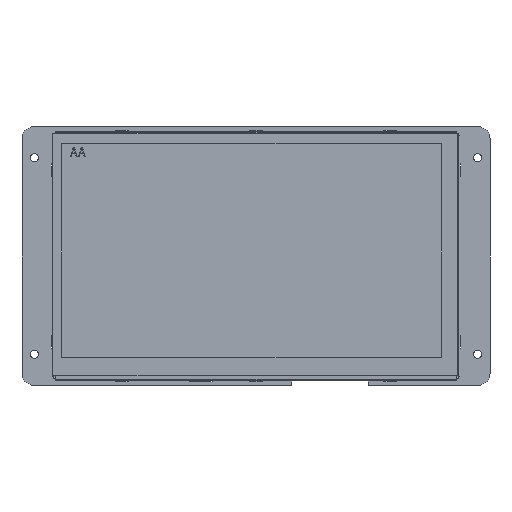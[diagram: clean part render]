
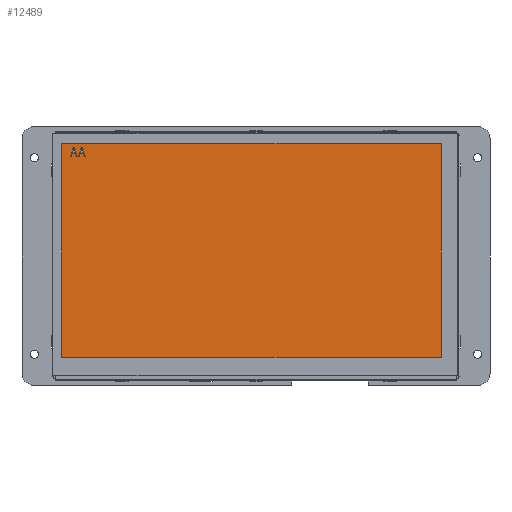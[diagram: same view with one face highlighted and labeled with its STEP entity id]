
A CAD part, front view. The second image highlights one B-rep face of the part: STEP entity #12489.
In plain terms, the highlighted planar face has unit normal (0, -1, 0) as drawn and (0, 1, 0) by its records, which use the part's own axes.
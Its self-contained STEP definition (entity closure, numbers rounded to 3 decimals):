
#11916=DIRECTION('',(0.,0.,1.));
#11917=VECTOR('',#11916,86.98);
#11918=CARTESIAN_POINT('',(-78.78,1.4,-45.17));
#11919=LINE('',#11918,#11917);
#11920=DIRECTION('',(-1.,0.,0.));
#11921=VECTOR('',#11920,154.48);
#11922=CARTESIAN_POINT('',(75.7,1.4,-45.17));
#11923=LINE('',#11922,#11921);
#11924=DIRECTION('',(0.,0.,-1.));
#11925=VECTOR('',#11924,86.98);
#11926=CARTESIAN_POINT('',(75.7,1.4,41.81));
#11927=LINE('',#11926,#11925);
#11928=DIRECTION('',(1.,0.,0.));
#11929=VECTOR('',#11928,154.48);
#11930=CARTESIAN_POINT('',(-78.78,1.4,41.81));
#11931=LINE('',#11930,#11929);
#11932=DIRECTION('',(0.316,0.,0.949));
#11933=VECTOR('',#11932,3.457);
#11934=CARTESIAN_POINT('',(-73.588,1.4,-43.408));
#11935=LINE('',#11934,#11933);
#11936=DIRECTION('',(1.,0.,0.));
#11937=VECTOR('',#11936,0.547);
#11938=CARTESIAN_POINT('',(-74.135,1.4,-43.408));
#11939=LINE('',#11938,#11937);
#11940=DIRECTION('',(0.316,0.,-0.949));
#11941=VECTOR('',#11940,3.457);
#11942=CARTESIAN_POINT('',(-75.228,1.4,-40.128));
#11943=LINE('',#11942,#11941);
#11944=DIRECTION('',(-1.,0.,0.));
#11945=VECTOR('',#11944,0.41);
#11946=CARTESIAN_POINT('',(-74.818,1.4,-40.128));
#11947=LINE('',#11946,#11945);
#11948=DIRECTION('',(-0.31,0.,0.951));
#11949=VECTOR('',#11948,0.881);
#11950=CARTESIAN_POINT('',(-74.545,1.4,-40.966));
#11951=LINE('',#11950,#11949);
#11952=DIRECTION('',(-1.,0.,0.));
#11953=VECTOR('',#11952,1.367);
#11954=CARTESIAN_POINT('',(-73.178,1.4,-40.966));
#11955=LINE('',#11954,#11953);
#11956=DIRECTION('',(-0.31,0.,-0.951));
#11957=VECTOR('',#11956,0.881);
#11958=CARTESIAN_POINT('',(-72.905,1.4,-40.128));
#11959=LINE('',#11958,#11957);
#11960=DIRECTION('',(-1.,0.,0.));
#11961=VECTOR('',#11960,0.41);
#11962=CARTESIAN_POINT('',(-72.495,1.4,-40.128));
#11963=LINE('',#11962,#11961);
#11976=DIRECTION('',(0.316,0.,0.949));
#11977=VECTOR('',#11976,3.457);
#11978=CARTESIAN_POINT('',(-70.308,1.4,-43.408));
#11979=LINE('',#11978,#11977);
#11980=DIRECTION('',(1.,0.,0.));
#11981=VECTOR('',#11980,0.547);
#11982=CARTESIAN_POINT('',(-70.855,1.4,-43.408));
#11983=LINE('',#11982,#11981);
#11984=DIRECTION('',(0.316,0.,-0.949));
#11985=VECTOR('',#11984,3.457);
#11986=CARTESIAN_POINT('',(-71.948,1.4,-40.128));
#11987=LINE('',#11986,#11985);
#11988=DIRECTION('',(-1.,0.,0.));
#11989=VECTOR('',#11988,0.41);
#11990=CARTESIAN_POINT('',(-71.538,1.4,-40.128));
#11991=LINE('',#11990,#11989);
#11992=DIRECTION('',(-0.31,0.,0.951));
#11993=VECTOR('',#11992,0.881);
#11994=CARTESIAN_POINT('',(-71.265,1.4,-40.966));
#11995=LINE('',#11994,#11993);
#11996=DIRECTION('',(-1.,0.,0.));
#11997=VECTOR('',#11996,1.367);
#11998=CARTESIAN_POINT('',(-69.898,1.4,-40.966));
#11999=LINE('',#11998,#11997);
#12000=DIRECTION('',(-0.31,0.,-0.951));
#12001=VECTOR('',#12000,0.881);
#12002=CARTESIAN_POINT('',(-69.625,1.4,-40.128));
#12003=LINE('',#12002,#12001);
#12004=DIRECTION('',(-1.,0.,0.));
#12005=VECTOR('',#12004,0.41);
#12006=CARTESIAN_POINT('',(-69.215,1.4,-40.128));
#12007=LINE('',#12006,#12005);
#12124=CARTESIAN_POINT('',(-78.78,1.4,-45.17));
#12125=CARTESIAN_POINT('',(-78.78,1.4,41.81));
#12126=VERTEX_POINT('',#12124);
#12127=VERTEX_POINT('',#12125);
#12128=CARTESIAN_POINT('',(75.7,1.4,41.81));
#12129=VERTEX_POINT('',#12128);
#12130=CARTESIAN_POINT('',(75.7,1.4,-45.17));
#12131=VERTEX_POINT('',#12130);
#12132=CARTESIAN_POINT('',(-73.588,1.4,-43.408));
#12133=CARTESIAN_POINT('',(-72.495,1.4,-40.128));
#12134=VERTEX_POINT('',#12132);
#12135=VERTEX_POINT('',#12133);
#12136=CARTESIAN_POINT('',(-72.905,1.4,-40.128));
#12137=VERTEX_POINT('',#12136);
#12138=CARTESIAN_POINT('',(-73.178,1.4,-40.966));
#12139=VERTEX_POINT('',#12138);
#12140=CARTESIAN_POINT('',(-74.545,1.4,-40.966));
#12141=VERTEX_POINT('',#12140);
#12142=CARTESIAN_POINT('',(-74.818,1.4,-40.128));
#12143=VERTEX_POINT('',#12142);
#12144=CARTESIAN_POINT('',(-75.228,1.4,-40.128));
#12145=VERTEX_POINT('',#12144);
#12146=CARTESIAN_POINT('',(-74.135,1.4,-43.408));
#12147=VERTEX_POINT('',#12146);
#12154=CARTESIAN_POINT('',(-70.308,1.4,-43.408));
#12155=CARTESIAN_POINT('',(-69.215,1.4,-40.128));
#12156=VERTEX_POINT('',#12154);
#12157=VERTEX_POINT('',#12155);
#12158=CARTESIAN_POINT('',(-69.625,1.4,-40.128));
#12159=VERTEX_POINT('',#12158);
#12160=CARTESIAN_POINT('',(-69.898,1.4,-40.966));
#12161=VERTEX_POINT('',#12160);
#12162=CARTESIAN_POINT('',(-71.265,1.4,-40.966));
#12163=VERTEX_POINT('',#12162);
#12164=CARTESIAN_POINT('',(-71.538,1.4,-40.128));
#12165=VERTEX_POINT('',#12164);
#12166=CARTESIAN_POINT('',(-71.948,1.4,-40.128));
#12167=VERTEX_POINT('',#12166);
#12168=CARTESIAN_POINT('',(-70.855,1.4,-43.408));
#12169=VERTEX_POINT('',#12168);
#12442=CARTESIAN_POINT('',(0.,1.4,0.));
#12443=DIRECTION('',(0.,1.,0.));
#12444=DIRECTION('',(1.,0.,0.));
#12445=AXIS2_PLACEMENT_3D('',#12442,#12443,#12444);
#12446=PLANE('',#12445);
#12447=ORIENTED_EDGE('',*,*,#12394,.F.);
#12448=ORIENTED_EDGE('',*,*,#12409,.F.);
#12449=ORIENTED_EDGE('',*,*,#12423,.F.);
#12450=ORIENTED_EDGE('',*,*,#12436,.F.);
#12451=EDGE_LOOP('',(#12447,#12448,#12449,#12450));
#12452=FACE_OUTER_BOUND('',#12451,.F.);
#12454=ORIENTED_EDGE('',*,*,#12453,.F.);
#12456=ORIENTED_EDGE('',*,*,#12455,.F.);
#12458=ORIENTED_EDGE('',*,*,#12457,.F.);
#12460=ORIENTED_EDGE('',*,*,#12459,.F.);
#12462=ORIENTED_EDGE('',*,*,#12461,.F.);
#12464=ORIENTED_EDGE('',*,*,#12463,.F.);
#12466=ORIENTED_EDGE('',*,*,#12465,.F.);
#12468=ORIENTED_EDGE('',*,*,#12467,.F.);
#12469=EDGE_LOOP('',(#12454,#12456,#12458,#12460,#12462,#12464,#12466,#12468));
#12470=FACE_BOUND('',#12469,.F.);
#12472=ORIENTED_EDGE('',*,*,#12471,.F.);
#12474=ORIENTED_EDGE('',*,*,#12473,.F.);
#12476=ORIENTED_EDGE('',*,*,#12475,.F.);
#12478=ORIENTED_EDGE('',*,*,#12477,.F.);
#12480=ORIENTED_EDGE('',*,*,#12479,.F.);
#12482=ORIENTED_EDGE('',*,*,#12481,.F.);
#12484=ORIENTED_EDGE('',*,*,#12483,.F.);
#12486=ORIENTED_EDGE('',*,*,#12485,.F.);
#12487=EDGE_LOOP('',(#12472,#12474,#12476,#12478,#12480,#12482,#12484,#12486));
#12488=FACE_BOUND('',#12487,.F.);
#12394=EDGE_CURVE('',#12126,#12127,#11919,.T.);
#12409=EDGE_CURVE('',#12131,#12126,#11923,.T.);
#12423=EDGE_CURVE('',#12129,#12131,#11927,.T.);
#12436=EDGE_CURVE('',#12127,#12129,#11931,.T.);
#12453=EDGE_CURVE('',#12134,#12135,#11935,.T.);
#12455=EDGE_CURVE('',#12147,#12134,#11939,.T.);
#12457=EDGE_CURVE('',#12145,#12147,#11943,.T.);
#12459=EDGE_CURVE('',#12143,#12145,#11947,.T.);
#12461=EDGE_CURVE('',#12141,#12143,#11951,.T.);
#12463=EDGE_CURVE('',#12139,#12141,#11955,.T.);
#12465=EDGE_CURVE('',#12137,#12139,#11959,.T.);
#12467=EDGE_CURVE('',#12135,#12137,#11963,.T.);
#12471=EDGE_CURVE('',#12156,#12157,#11979,.T.);
#12473=EDGE_CURVE('',#12169,#12156,#11983,.T.);
#12475=EDGE_CURVE('',#12167,#12169,#11987,.T.);
#12477=EDGE_CURVE('',#12165,#12167,#11991,.T.);
#12479=EDGE_CURVE('',#12163,#12165,#11995,.T.);
#12481=EDGE_CURVE('',#12161,#12163,#11999,.T.);
#12483=EDGE_CURVE('',#12159,#12161,#12003,.T.);
#12485=EDGE_CURVE('',#12157,#12159,#12007,.T.);
#12489=ADVANCED_FACE('',(#12452,#12470,#12488),#12446,.T.);
